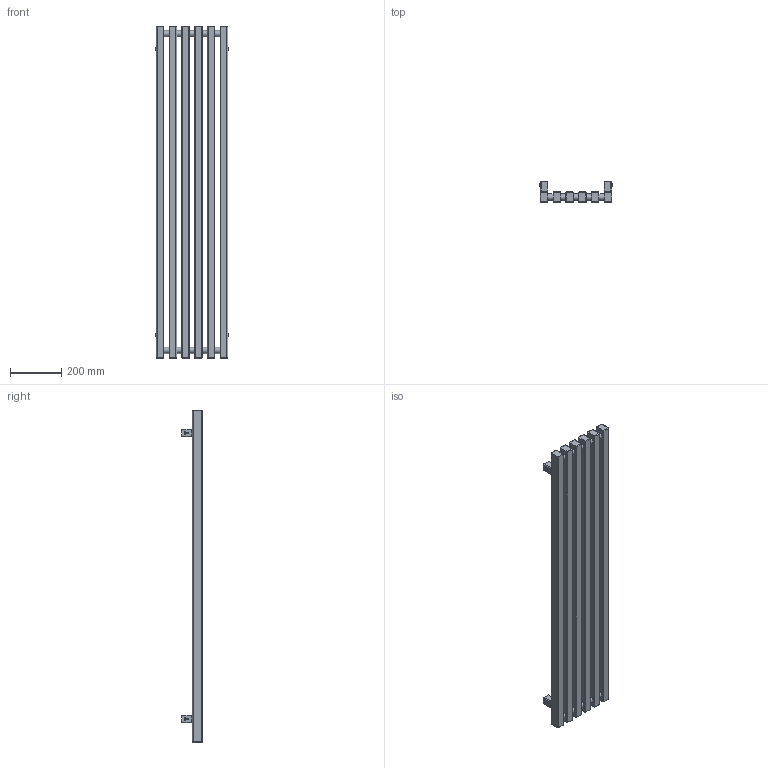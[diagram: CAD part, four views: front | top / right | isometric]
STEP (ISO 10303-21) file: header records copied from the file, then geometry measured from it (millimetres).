
FILE_DESCRIPTION((''),'2;1');
FILE_NAME('Z:\R\G\P\RGP029 - Grzejnik Triga ( ZET)\Work\Inventor\Triga v1.1\Marketing\AutoCad 3D\G-TR-XX-MK-XX-13-38-ZX.stp','2012-07-26T12:53:02',('DawPi'),(''),'Autodesk Inventor 2012','Autodesk Inventor 2012','');
FILE_SCHEMA(('AUTOMOTIVE_DESIGN { 1 0 10303 214 1 1 1 1 }'));
Length unit declared in the file: millimetre
Products named in the file (3): G-TR-XX-MK-XX-13-38-ZX; MMT42
Assembly tree (5 placements, depth 2):
  G-TR-XX-MK-XX-13-38-ZX
    G-TR-XX-MK-XX-13-38-ZX
    MMT42  x4
Bounding box: 286 x 82 x 1300 mm (x, y, z)
Volume: 9533298.2 mm3; surface area: 1103433.3 mm2
Topology: 5 solids, 5 shells, 373 faces, 845 edges, 515 vertices
Faces by surface type: plane 147, cylinder 141, bspline 48, cone 24, torus 13
Full cylindrical faces by diameter (mm): 4.134 x4, 4.509 x4, 10 x4, 11.445 x1, 12 x4, 18.631 x2, 25 x10
Entity records: 10127 total; most frequent: CARTESIAN_POINT 4914, DIRECTION 1154, ORIENTED_EDGE 972, EDGE_CURVE 486, AXIS2_PLACEMENT_3D 474, VERTEX_POINT 306, EDGE_LOOP 304, CIRCLE 276
